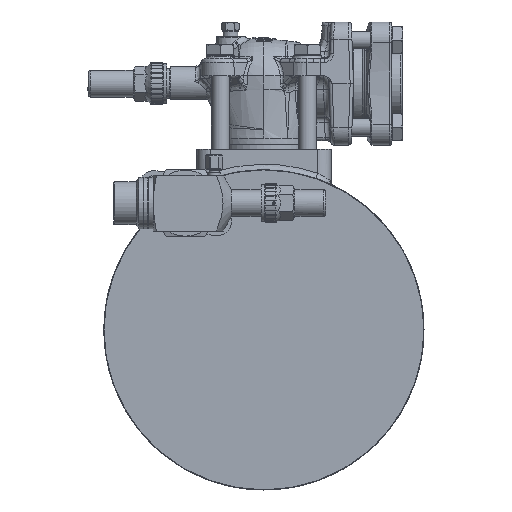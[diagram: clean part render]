
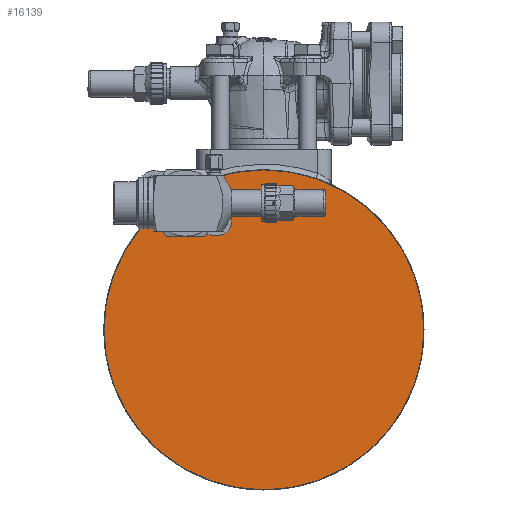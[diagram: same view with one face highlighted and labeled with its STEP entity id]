
A CAD part, left-side view. The second image highlights one B-rep face of the part: STEP entity #16139.
In plain terms, the highlighted planar face has unit normal (-1, 0, 0) as drawn and (1, 0, 0) by its records, which use the part's own axes.
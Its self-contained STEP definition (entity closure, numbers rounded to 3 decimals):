
#9464=FACE_OUTER_BOUND('',#25974,.T.);
#16139=ADVANCED_FACE('',(#9464),#17600,.F.);
#17600=PLANE('',#55825);
#25974=EDGE_LOOP('',(#38621));
#38621=ORIENTED_EDGE('',*,*,#51178,.T.);
#44319=VERTEX_POINT('',#114180);
#51178=EDGE_CURVE('',#44319,#44319,#52981,.T.);
#52981=CIRCLE('',#55824,142.9);
#55824=AXIS2_PLACEMENT_3D('',#114179,#64176,#64177);
#55825=AXIS2_PLACEMENT_3D('',#114181,#64178,#64179);
#64176=DIRECTION('',(1.,0.,0.));
#64177=DIRECTION('',(0.,0.,1.));
#64178=DIRECTION('',(-1.,0.,0.));
#64179=DIRECTION('',(0.,-1.,0.));
#114179=CARTESIAN_POINT('',(152.773,47.708,0.));
#114180=CARTESIAN_POINT('',(152.773,47.708,142.9));
#114181=CARTESIAN_POINT('',(152.773,249.243,-222.821));
